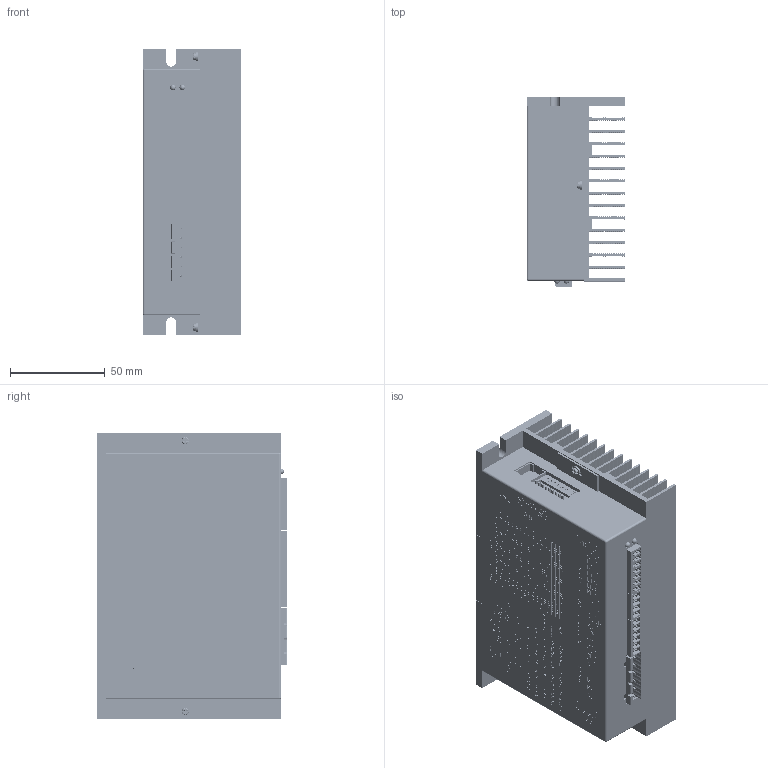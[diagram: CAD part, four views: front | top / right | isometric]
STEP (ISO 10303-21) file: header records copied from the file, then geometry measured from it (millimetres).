
FILE_DESCRIPTION((''),'2;1');
FILE_NAME('ASM0001_ASM','2025-07-08T17:14:35',('Administrator'),(''),'CREO PARAMETRIC BY PTC INC, 2018400','CREO PARAMETRIC BY PTC INC, 2018400','');
FILE_SCHEMA(('CONFIG_CONTROL_DESIGN'));
Products named in the file (3): 2LS860H; 6XINDIANYUANZUO; ASM0001_ASM
Assembly tree (2 placements, depth 2):
  ASM0001_ASM
    2LS860H
    6XINDIANYUANZUO
Bounding box: 52 x 99.65 x 151 mm (x, y, z)
Volume: 481449.4 mm3; surface area: 157813.2 mm2
Topology: 2 solids, 2 shells, 21530 faces, 61160 edges, 40712 vertices
Faces by surface type: plane 21136, cylinder 272, extrusion 64, sphere 26, bspline 19, torus 13
Entity records: 687399 total; most frequent: CARTESIAN_POINT 127076, ORIENTED_EDGE 122272, DIRECTION 104294, EDGE_CURVE 61136, VECTOR 60274, LINE 60210, VERTEX_POINT 40712, EDGE_LOOP 22652
